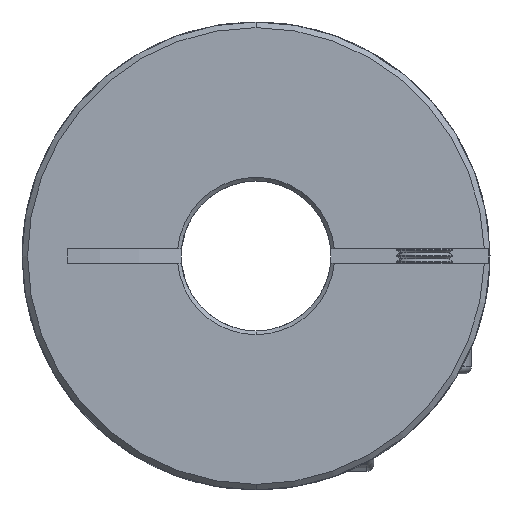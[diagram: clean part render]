
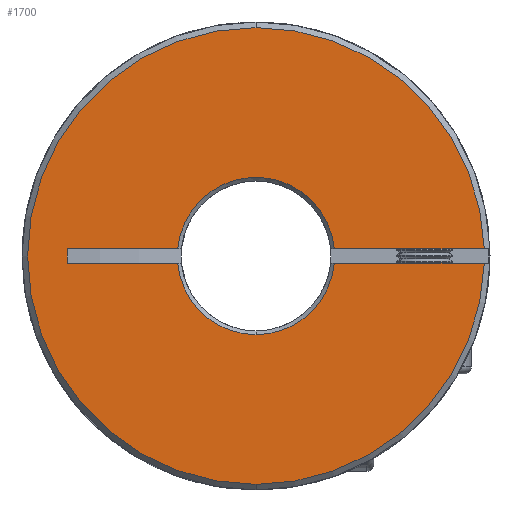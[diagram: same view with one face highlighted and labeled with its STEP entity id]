
A CAD part, front view. The second image highlights one B-rep face of the part: STEP entity #1700.
In plain terms, the highlighted planar face has unit normal (0, -1, 0).
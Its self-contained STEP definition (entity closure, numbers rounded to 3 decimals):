
#26 = LINE ( 'NONE', #14187, #6756 ) ;
#150 = LINE ( 'NONE', #13053, #6879 ) ;
#433 = CARTESIAN_POINT ( 'NONE',  ( 0., 0., 0. ) ) ;
#628 = EDGE_CURVE ( 'NONE', #3310, #16081, #13857, .T. ) ;
#684 = CARTESIAN_POINT ( 'NONE',  ( 0., 0., 0. ) ) ;
#743 = VERTEX_POINT ( 'NONE', #5259 ) ;
#1088 = AXIS2_PLACEMENT_3D ( 'NONE', #3047, #13783, #15149 ) ;
#1218 = DIRECTION ( 'NONE',  ( 1., 0., 0. ) ) ;
#1572 = DIRECTION ( 'NONE',  ( 1., 0., 0. ) ) ;
#1700 = ADVANCED_FACE ( 'NONE', ( #12573 ), #3289, .F. ) ;
#1706 = CARTESIAN_POINT ( 'NONE',  ( -50., 0., 0.75 ) ) ;
#1757 = ORIENTED_EDGE ( 'NONE', *, *, #16572, .T. ) ;
#1778 = DIRECTION ( 'NONE',  ( 0., 0., 1. ) ) ;
#1816 = EDGE_CURVE ( 'NONE', #12685, #14152, #7747, .T. ) ;
#1854 = DIRECTION ( 'NONE',  ( 0., -1., 0. ) ) ;
#1893 = DIRECTION ( 'NONE',  ( 0., 0., 1. ) ) ;
#2037 = CARTESIAN_POINT ( 'NONE',  ( 8.366, 0., 0.75 ) ) ;
#2208 = DIRECTION ( 'NONE',  ( 0., 0., 1. ) ) ;
#2395 = CARTESIAN_POINT ( 'NONE',  ( 0., 0., -8.4 ) ) ;
#2641 = CIRCLE ( 'NONE', #1088, 24.4 ) ;
#2818 = VERTEX_POINT ( 'NONE', #2037 ) ;
#3047 = CARTESIAN_POINT ( 'NONE',  ( 0., 0., 0. ) ) ;
#3055 = CARTESIAN_POINT ( 'NONE',  ( -20.149, 0., 0.75 ) ) ;
#3289 = PLANE ( 'NONE',  #6984 ) ;
#3310 = VERTEX_POINT ( 'NONE', #4489 ) ;
#3352 = VECTOR ( 'NONE', #12617, 1000. ) ;
#3427 = DIRECTION ( 'NONE',  ( 0., 1., 0. ) ) ;
#3432 = ORIENTED_EDGE ( 'NONE', *, *, #15117, .F. ) ;
#3713 = EDGE_CURVE ( 'NONE', #743, #2818, #9233, .T. ) ;
#3752 = CARTESIAN_POINT ( 'NONE',  ( 0., 0., 0. ) ) ;
#3970 = VECTOR ( 'NONE', #1218, 1000. ) ;
#4326 = AXIS2_PLACEMENT_3D ( 'NONE', #433, #1854, #4565 ) ;
#4483 = CIRCLE ( 'NONE', #4916, 8.4 ) ;
#4489 = CARTESIAN_POINT ( 'NONE',  ( 8.366, 0., -0.75 ) ) ;
#4565 = DIRECTION ( 'NONE',  ( 0., 0., 1. ) ) ;
#4615 = LINE ( 'NONE', #8023, #3970 ) ;
#4916 = AXIS2_PLACEMENT_3D ( 'NONE', #5895, #15281, #1778 ) ;
#4929 = DIRECTION ( 'NONE',  ( 1., 0., 0. ) ) ;
#5110 = AXIS2_PLACEMENT_3D ( 'NONE', #7643, #13081, #17066 ) ;
#5259 = CARTESIAN_POINT ( 'NONE',  ( -8.366, 0., 0.75 ) ) ;
#5651 = CARTESIAN_POINT ( 'NONE',  ( -20.149, 0., -0.75 ) ) ;
#5895 = CARTESIAN_POINT ( 'NONE',  ( 0., 0., 0. ) ) ;
#6147 = DIRECTION ( 'NONE',  ( 0., 0., 1. ) ) ;
#6286 = ORIENTED_EDGE ( 'NONE', *, *, #3713, .T. ) ;
#6329 = EDGE_CURVE ( 'NONE', #9947, #12685, #2641, .T. ) ;
#6744 = VERTEX_POINT ( 'NONE', #15802 ) ;
#6756 = VECTOR ( 'NONE', #4929, 1000. ) ;
#6879 = VECTOR ( 'NONE', #2208, 1000. ) ;
#6973 = EDGE_LOOP ( 'NONE', ( #3432, #9894, #10803, #7246, #1757, #11660, #6286, #11361, #15827, #11400, #7320 ) ) ;
#6984 = AXIS2_PLACEMENT_3D ( 'NONE', #8776, #16881, #1893 ) ;
#7246 = ORIENTED_EDGE ( 'NONE', *, *, #9291, .F. ) ;
#7320 = ORIENTED_EDGE ( 'NONE', *, *, #9613, .T. ) ;
#7643 = CARTESIAN_POINT ( 'NONE',  ( 0., 0., 0. ) ) ;
#7747 = CIRCLE ( 'NONE', #15652, 24.4 ) ;
#8023 = CARTESIAN_POINT ( 'NONE',  ( -50., 0., -0.75 ) ) ;
#8395 = LINE ( 'NONE', #16319, #10680 ) ;
#8727 = VERTEX_POINT ( 'NONE', #14989 ) ;
#8776 = CARTESIAN_POINT ( 'NONE',  ( -50., 0., 32.858 ) ) ;
#9233 = CIRCLE ( 'NONE', #5110, 8.4 ) ;
#9291 = EDGE_CURVE ( 'NONE', #10534, #8727, #26, .T. ) ;
#9613 = EDGE_CURVE ( 'NONE', #14152, #6744, #10625, .T. ) ;
#9894 = ORIENTED_EDGE ( 'NONE', *, *, #628, .T. ) ;
#9947 = VERTEX_POINT ( 'NONE', #17424 ) ;
#10153 = VERTEX_POINT ( 'NONE', #3055 ) ;
#10277 = DIRECTION ( 'NONE',  ( 0., -1., 0. ) ) ;
#10534 = VERTEX_POINT ( 'NONE', #5651 ) ;
#10625 = CIRCLE ( 'NONE', #4326, 24.4 ) ;
#10680 = VECTOR ( 'NONE', #1572, 1000. ) ;
#10803 = ORIENTED_EDGE ( 'NONE', *, *, #11871, .T. ) ;
#11361 = ORIENTED_EDGE ( 'NONE', *, *, #15211, .T. ) ;
#11400 = ORIENTED_EDGE ( 'NONE', *, *, #1816, .T. ) ;
#11660 = ORIENTED_EDGE ( 'NONE', *, *, #13909, .T. ) ;
#11871 = EDGE_CURVE ( 'NONE', #16081, #8727, #4483, .T. ) ;
#12573 = FACE_OUTER_BOUND ( 'NONE', #6973, .T. ) ;
#12617 = DIRECTION ( 'NONE',  ( 1., 0., 0. ) ) ;
#12685 = VERTEX_POINT ( 'NONE', #17451 ) ;
#13053 = CARTESIAN_POINT ( 'NONE',  ( -20.149, 0., -0.75 ) ) ;
#13081 = DIRECTION ( 'NONE',  ( 0., 1., 0. ) ) ;
#13139 = DIRECTION ( 'NONE',  ( 0., 0., 1. ) ) ;
#13783 = DIRECTION ( 'NONE',  ( 0., -1., 0. ) ) ;
#13857 = CIRCLE ( 'NONE', #14274, 8.4 ) ;
#13909 = EDGE_CURVE ( 'NONE', #10153, #743, #14059, .T. ) ;
#14059 = LINE ( 'NONE', #1706, #3352 ) ;
#14152 = VERTEX_POINT ( 'NONE', #16478 ) ;
#14187 = CARTESIAN_POINT ( 'NONE',  ( -50., 0., -0.75 ) ) ;
#14274 = AXIS2_PLACEMENT_3D ( 'NONE', #684, #3427, #6147 ) ;
#14989 = CARTESIAN_POINT ( 'NONE',  ( -8.366, 0., -0.75 ) ) ;
#15117 = EDGE_CURVE ( 'NONE', #3310, #6744, #4615, .T. ) ;
#15149 = DIRECTION ( 'NONE',  ( 0., 0., 1. ) ) ;
#15211 = EDGE_CURVE ( 'NONE', #2818, #9947, #8395, .T. ) ;
#15281 = DIRECTION ( 'NONE',  ( 0., 1., 0. ) ) ;
#15652 = AXIS2_PLACEMENT_3D ( 'NONE', #3752, #10277, #13139 ) ;
#15802 = CARTESIAN_POINT ( 'NONE',  ( 24.388, 0., -0.75 ) ) ;
#15827 = ORIENTED_EDGE ( 'NONE', *, *, #6329, .T. ) ;
#16081 = VERTEX_POINT ( 'NONE', #2395 ) ;
#16319 = CARTESIAN_POINT ( 'NONE',  ( -50., 0., 0.75 ) ) ;
#16478 = CARTESIAN_POINT ( 'NONE',  ( 0., 0., -24.4 ) ) ;
#16572 = EDGE_CURVE ( 'NONE', #10534, #10153, #150, .T. ) ;
#16881 = DIRECTION ( 'NONE',  ( 0., 1., 0. ) ) ;
#17066 = DIRECTION ( 'NONE',  ( 0., 0., 1. ) ) ;
#17424 = CARTESIAN_POINT ( 'NONE',  ( 24.388, 0., 0.75 ) ) ;
#17451 = CARTESIAN_POINT ( 'NONE',  ( 0., 0., 24.4 ) ) ;
